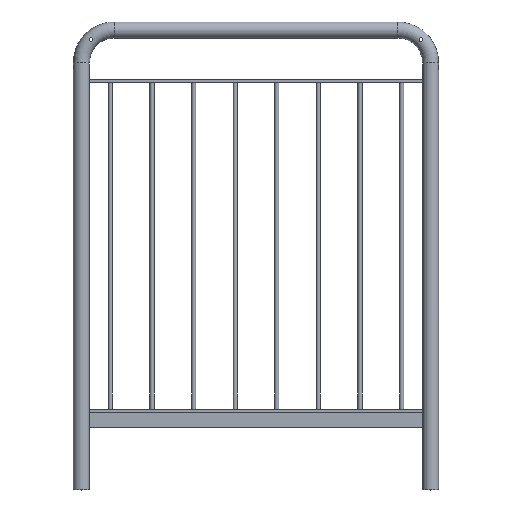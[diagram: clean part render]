
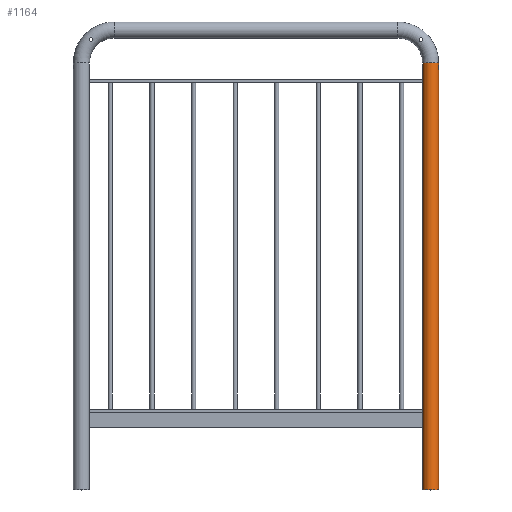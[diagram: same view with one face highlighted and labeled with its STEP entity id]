
A CAD part, top view. The second image highlights one B-rep face of the part: STEP entity #1164.
In plain terms, the highlighted cylindrical face has radius 21.2 mm (diameter 42.4 mm), a full revolution.
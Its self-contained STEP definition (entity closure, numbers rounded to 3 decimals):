
#288=CARTESIAN_POINT('',(902.526,1001.2,5.5));
#289=VERTEX_POINT('',#288);
#290=CARTESIAN_POINT('',(902.526,1001.2,5.5));
#291=CARTESIAN_POINT('',(902.526,1000.506,5.5));
#292=CARTESIAN_POINT('',(902.487,999.768,5.361));
#293=CARTESIAN_POINT('',(902.348,998.414,4.798));
#294=CARTESIAN_POINT('',(902.251,997.797,4.376));
#295=CARTESIAN_POINT('',(902.069,996.824,3.403));
#296=CARTESIAN_POINT('',(901.973,996.402,2.786));
#297=CARTESIAN_POINT('',(901.837,995.839,1.432));
#298=CARTESIAN_POINT('',(901.8,995.7,0.694));
#299=CARTESIAN_POINT('',(901.8,995.7,-0.694));
#300=CARTESIAN_POINT('',(901.837,995.839,-1.432));
#301=CARTESIAN_POINT('',(901.973,996.402,-2.786));
#302=CARTESIAN_POINT('',(902.069,996.824,-3.403));
#303=CARTESIAN_POINT('',(902.251,997.797,-4.376));
#304=CARTESIAN_POINT('',(902.348,998.414,-4.798));
#305=CARTESIAN_POINT('',(902.487,999.768,-5.361));
#306=CARTESIAN_POINT('',(902.526,1000.506,-5.5));
#307=CARTESIAN_POINT('',(902.526,1001.894,-5.5));
#308=CARTESIAN_POINT('',(902.487,1002.632,-5.361));
#309=CARTESIAN_POINT('',(902.348,1003.986,-4.798));
#310=CARTESIAN_POINT('',(902.251,1004.603,-4.376));
#311=CARTESIAN_POINT('',(902.069,1005.576,-3.403));
#312=CARTESIAN_POINT('',(901.973,1005.998,-2.786));
#313=CARTESIAN_POINT('',(901.837,1006.561,-1.432));
#314=CARTESIAN_POINT('',(901.8,1006.7,-0.694));
#315=CARTESIAN_POINT('',(901.8,1006.7,0.694));
#316=CARTESIAN_POINT('',(901.837,1006.561,1.432));
#317=CARTESIAN_POINT('',(901.973,1005.998,2.786));
#318=CARTESIAN_POINT('',(902.069,1005.576,3.403));
#319=CARTESIAN_POINT('',(902.251,1004.603,4.376));
#320=CARTESIAN_POINT('',(902.348,1003.986,4.798));
#321=CARTESIAN_POINT('',(902.487,1002.632,5.361));
#322=CARTESIAN_POINT('',(902.526,1001.894,5.5));
#323=CARTESIAN_POINT('',(902.526,1001.2,5.5));
#324=B_SPLINE_CURVE_WITH_KNOTS('',3,(#290,#291,#292,#293,#294,#295,#296,#297,#298,#299,#300,#301,#302,#303,#304,#305,#306,#307,#308,#309,#310,#311,#312,#313,#314,#315,#316,#317,#318,#319,#320,#321,#322,#323),.UNSPECIFIED.,.T.,.U.,(4,2,2,2,2,2,2,2,2,2,2,2,2,2,2,2,4),(0.0,0.208,0.416,0.625,0.833,1.041,1.249,1.457,1.666,1.874,2.082,2.29,2.498,2.707,2.915,3.123,3.331),.UNSPECIFIED.);
#325=EDGE_CURVE('',#289,#289,#324,.T.);
#417=CARTESIAN_POINT('',(943.474,1001.2,5.5));
#418=VERTEX_POINT('',#417);
#419=CARTESIAN_POINT('',(943.474,1001.2,5.5));
#420=CARTESIAN_POINT('',(943.474,1001.894,5.5));
#421=CARTESIAN_POINT('',(943.513,1002.632,5.361));
#422=CARTESIAN_POINT('',(943.652,1003.986,4.798));
#423=CARTESIAN_POINT('',(943.749,1004.603,4.376));
#424=CARTESIAN_POINT('',(943.931,1005.576,3.403));
#425=CARTESIAN_POINT('',(944.027,1005.998,2.786));
#426=CARTESIAN_POINT('',(944.163,1006.561,1.432));
#427=CARTESIAN_POINT('',(944.2,1006.7,0.694));
#428=CARTESIAN_POINT('',(944.2,1006.7,-0.694));
#429=CARTESIAN_POINT('',(944.163,1006.561,-1.432));
#430=CARTESIAN_POINT('',(944.027,1005.998,-2.786));
#431=CARTESIAN_POINT('',(943.931,1005.576,-3.403));
#432=CARTESIAN_POINT('',(943.749,1004.603,-4.376));
#433=CARTESIAN_POINT('',(943.652,1003.986,-4.798));
#434=CARTESIAN_POINT('',(943.513,1002.632,-5.361));
#435=CARTESIAN_POINT('',(943.474,1001.894,-5.5));
#436=CARTESIAN_POINT('',(943.474,1000.506,-5.5));
#437=CARTESIAN_POINT('',(943.513,999.768,-5.361));
#438=CARTESIAN_POINT('',(943.652,998.414,-4.798));
#439=CARTESIAN_POINT('',(943.749,997.797,-4.376));
#440=CARTESIAN_POINT('',(943.931,996.824,-3.403));
#441=CARTESIAN_POINT('',(944.027,996.402,-2.786));
#442=CARTESIAN_POINT('',(944.163,995.839,-1.432));
#443=CARTESIAN_POINT('',(944.2,995.7,-0.694));
#444=CARTESIAN_POINT('',(944.2,995.7,0.694));
#445=CARTESIAN_POINT('',(944.163,995.839,1.432));
#446=CARTESIAN_POINT('',(944.027,996.402,2.786));
#447=CARTESIAN_POINT('',(943.931,996.824,3.403));
#448=CARTESIAN_POINT('',(943.749,997.797,4.376));
#449=CARTESIAN_POINT('',(943.652,998.414,4.798));
#450=CARTESIAN_POINT('',(943.513,999.768,5.361));
#451=CARTESIAN_POINT('',(943.474,1000.506,5.5));
#452=CARTESIAN_POINT('',(943.474,1001.2,5.5));
#453=B_SPLINE_CURVE_WITH_KNOTS('',3,(#419,#420,#421,#422,#423,#424,#425,#426,#427,#428,#429,#430,#431,#432,#433,#434,#435,#436,#437,#438,#439,#440,#441,#442,#443,#444,#445,#446,#447,#448,#449,#450,#451,#452),.UNSPECIFIED.,.T.,.U.,(4,2,2,2,2,2,2,2,2,2,2,2,2,2,2,2,4),(0.0,0.208,0.416,0.625,0.833,1.041,1.249,1.457,1.666,1.874,2.082,2.29,2.498,2.707,2.915,3.123,3.331),.UNSPECIFIED.);
#454=EDGE_CURVE('',#418,#418,#453,.T.);
#1131=CARTESIAN_POINT('',(923.,1013.5,0.0));
#1132=DIRECTION('',(0.,-1.0,0.0));
#1133=DIRECTION('',(-1.0,0.0,0.0));
#1134=AXIS2_PLACEMENT_3D('',#1131,#1132,#1133);
#1135=CYLINDRICAL_SURFACE('',#1134,21.2);
#1136=CARTESIAN_POINT('',(944.2,-116.,0.));
#1137=VERTEX_POINT('',#1136);
#1138=CARTESIAN_POINT('',(923.,-116.,0.0));
#1139=DIRECTION('',(0.0,1.0,0.0));
#1140=DIRECTION('',(-1.0,0.0,0.0));
#1141=AXIS2_PLACEMENT_3D('',#1138,#1139,#1140);
#1142=CIRCLE('',#1141,21.2);
#1143=EDGE_CURVE('',#1137,#1137,#1142,.T.);
#1144=ORIENTED_EDGE('',*,*,#1143,.T.);
#1145=EDGE_LOOP('',(#1144));
#1146=FACE_OUTER_BOUND('',#1145,.T.);
#1147=ORIENTED_EDGE('',*,*,#454,.T.);
#1148=EDGE_LOOP('',(#1147));
#1149=FACE_BOUND('',#1148,.T.);
#1150=ORIENTED_EDGE('',*,*,#325,.T.);
#1151=EDGE_LOOP('',(#1150));
#1152=FACE_BOUND('',#1151,.T.);
#1153=CARTESIAN_POINT('',(944.2,1013.5,0.));
#1154=VERTEX_POINT('',#1153);
#1155=CARTESIAN_POINT('',(923.,1013.5,0.0));
#1156=DIRECTION('',(0.0,1.0,0.0));
#1157=DIRECTION('',(-1.0,0.0,0.0));
#1158=AXIS2_PLACEMENT_3D('',#1155,#1156,#1157);
#1159=CIRCLE('',#1158,21.2);
#1160=EDGE_CURVE('',#1154,#1154,#1159,.T.);
#1161=ORIENTED_EDGE('',*,*,#1160,.F.);
#1162=EDGE_LOOP('',(#1161));
#1163=FACE_BOUND('',#1162,.T.);
#1164=ADVANCED_FACE('',(#1146,#1149,#1152,#1163),#1135,.T.);
